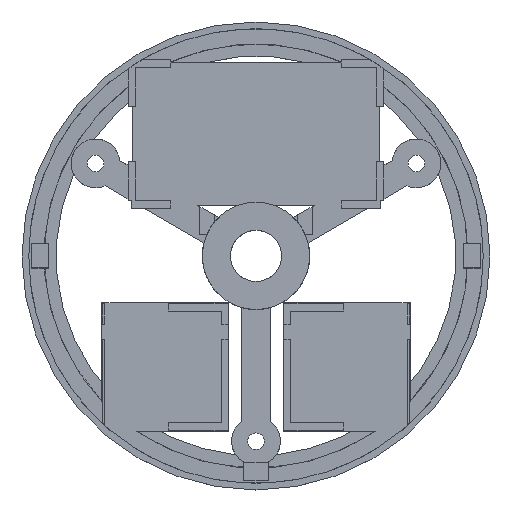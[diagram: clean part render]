
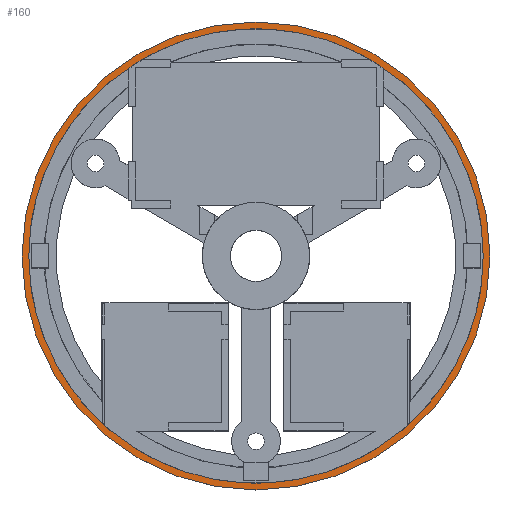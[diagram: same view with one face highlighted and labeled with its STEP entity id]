
A CAD part, top view. The second image highlights one B-rep face of the part: STEP entity #160.
In plain terms, the highlighted planar face has unit normal (0, 0, 1).
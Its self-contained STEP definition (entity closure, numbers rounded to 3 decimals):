
#24 = VERTEX_POINT('',#25);
#25 = CARTESIAN_POINT('',(48.,0.,2.061));
#32 = CYLINDRICAL_SURFACE('',#33,48.);
#33 = AXIS2_PLACEMENT_3D('',#34,#35,#36);
#34 = CARTESIAN_POINT('',(0.,0.,0.061));
#35 = DIRECTION('',(-0.,-0.,-1.));
#36 = DIRECTION('',(1.,0.,0.));
#51 = EDGE_CURVE('',#24,#24,#52,.T.);
#52 = SURFACE_CURVE('',#53,(#58,#65),.PCURVE_S1.);
#53 = CIRCLE('',#54,48.);
#54 = AXIS2_PLACEMENT_3D('',#55,#56,#57);
#55 = CARTESIAN_POINT('',(0.,0.,2.061));
#56 = DIRECTION('',(0.,0.,1.));
#57 = DIRECTION('',(1.,0.,0.));
#58 = PCURVE('',#32,#59);
#59 = DEFINITIONAL_REPRESENTATION('',(#60),#64);
#60 = LINE('',#61,#62);
#61 = CARTESIAN_POINT('',(-0.,-2.));
#62 = VECTOR('',#63,1.);
#63 = DIRECTION('',(-1.,0.));
#64 = ( GEOMETRIC_REPRESENTATION_CONTEXT(2) 
PARAMETRIC_REPRESENTATION_CONTEXT() REPRESENTATION_CONTEXT('2D SPACE',''
  ) );
#65 = PCURVE('',#66,#71);
#66 = PLANE('',#67);
#67 = AXIS2_PLACEMENT_3D('',#68,#69,#70);
#68 = CARTESIAN_POINT('',(0.,0.,
    2.061));
#69 = DIRECTION('',(0.,0.,1.));
#70 = DIRECTION('',(1.,0.,-0.));
#71 = DEFINITIONAL_REPRESENTATION('',(#72),#76);
#72 = CIRCLE('',#73,48.);
#73 = AXIS2_PLACEMENT_2D('',#74,#75);
#74 = CARTESIAN_POINT('',(0.,0.));
#75 = DIRECTION('',(1.,0.));
#76 = ( GEOMETRIC_REPRESENTATION_CONTEXT(2) 
PARAMETRIC_REPRESENTATION_CONTEXT() REPRESENTATION_CONTEXT('2D SPACE',''
  ) );
#160 = ADVANCED_FACE('',(#161,#164),#66,.T.);
#161 = FACE_BOUND('',#162,.T.);
#162 = EDGE_LOOP('',(#163));
#163 = ORIENTED_EDGE('',*,*,#51,.T.);
#164 = FACE_BOUND('',#165,.T.);
#165 = EDGE_LOOP('',(#166));
#166 = ORIENTED_EDGE('',*,*,#167,.F.);
#167 = EDGE_CURVE('',#168,#168,#170,.T.);
#168 = VERTEX_POINT('',#169);
#169 = CARTESIAN_POINT('',(46.6,0.,2.061));
#170 = SURFACE_CURVE('',#171,(#176,#183),.PCURVE_S1.);
#171 = CIRCLE('',#172,46.6);
#172 = AXIS2_PLACEMENT_3D('',#173,#174,#175);
#173 = CARTESIAN_POINT('',(0.,0.,2.061));
#174 = DIRECTION('',(0.,0.,1.));
#175 = DIRECTION('',(1.,0.,0.));
#176 = PCURVE('',#66,#177);
#177 = DEFINITIONAL_REPRESENTATION('',(#178),#182);
#178 = CIRCLE('',#179,46.6);
#179 = AXIS2_PLACEMENT_2D('',#180,#181);
#180 = CARTESIAN_POINT('',(0.,0.));
#181 = DIRECTION('',(1.,0.));
#182 = ( GEOMETRIC_REPRESENTATION_CONTEXT(2) 
PARAMETRIC_REPRESENTATION_CONTEXT() REPRESENTATION_CONTEXT('2D SPACE',''
  ) );
#183 = PCURVE('',#184,#189);
#184 = CYLINDRICAL_SURFACE('',#185,46.6);
#185 = AXIS2_PLACEMENT_3D('',#186,#187,#188);
#186 = CARTESIAN_POINT('',(0.,0.,2.061));
#187 = DIRECTION('',(-0.,-0.,-1.));
#188 = DIRECTION('',(1.,0.,0.));
#189 = DEFINITIONAL_REPRESENTATION('',(#190),#194);
#190 = LINE('',#191,#192);
#191 = CARTESIAN_POINT('',(-0.,0.));
#192 = VECTOR('',#193,1.);
#193 = DIRECTION('',(-1.,0.));
#194 = ( GEOMETRIC_REPRESENTATION_CONTEXT(2) 
PARAMETRIC_REPRESENTATION_CONTEXT() REPRESENTATION_CONTEXT('2D SPACE',''
  ) );
